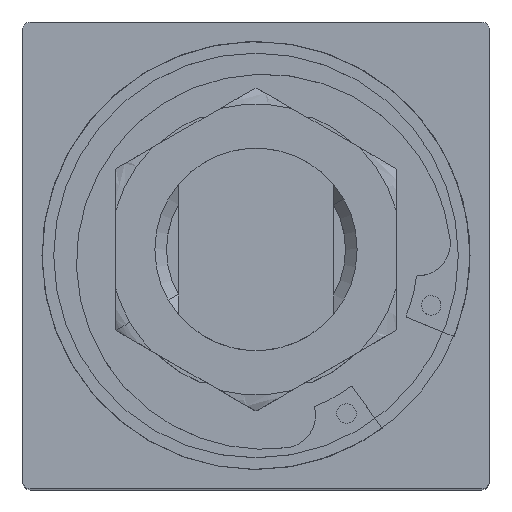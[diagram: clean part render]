
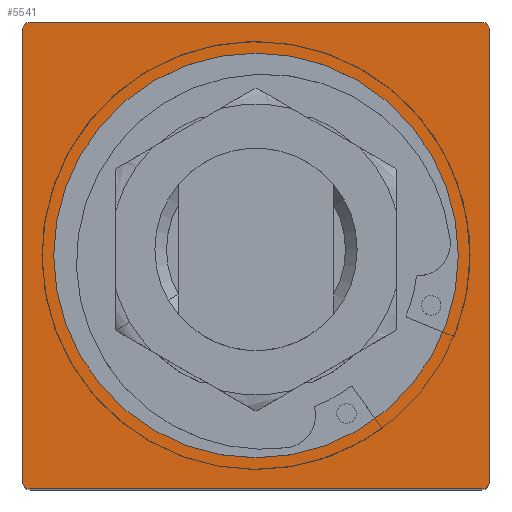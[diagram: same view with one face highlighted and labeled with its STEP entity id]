
A CAD part, top view. The second image highlights one B-rep face of the part: STEP entity #5541.
In plain terms, the highlighted planar face has unit normal (0, 0, 1).
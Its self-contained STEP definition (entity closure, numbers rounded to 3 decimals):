
#78 = LINE ( 'NONE', #663, #17914 ) ;
#299 = EDGE_CURVE ( 'NONE', #7950, #11999, #19540, .T. ) ;
#608 = ORIENTED_EDGE ( 'NONE', *, *, #10208, .T. ) ;
#663 = CARTESIAN_POINT ( 'NONE',  ( 0., -30., -718. ) ) ;
#692 = LINE ( 'NONE', #17392, #8366 ) ;
#1158 = CIRCLE ( 'NONE', #8865, 1. ) ;
#1592 = ORIENTED_EDGE ( 'NONE', *, *, #8836, .T. ) ;
#1632 = DIRECTION ( 'NONE',  ( -1., 0., 0. ) ) ;
#2130 = FACE_OUTER_BOUND ( 'NONE', #5922, .T. ) ;
#2598 = DIRECTION ( 'NONE',  ( -1., 0., 0. ) ) ;
#2892 = DIRECTION ( 'NONE',  ( 0., 0., -1. ) ) ;
#3061 = CARTESIAN_POINT ( 'NONE',  ( -30., 0., -718. ) ) ;
#3484 = ORIENTED_EDGE ( 'NONE', *, *, #299, .F. ) ;
#3542 = LINE ( 'NONE', #3061, #16370 ) ;
#3582 = CARTESIAN_POINT ( 'NONE',  ( 29., -29., -718. ) ) ;
#4128 = CIRCLE ( 'NONE', #7552, 1. ) ;
#4205 = EDGE_CURVE ( 'NONE', #7349, #16031, #6685, .T. ) ;
#4721 = CARTESIAN_POINT ( 'NONE',  ( -29., -30., -718. ) ) ;
#5057 = DIRECTION ( 'NONE',  ( 0., -1., 0. ) ) ;
#5541 = ADVANCED_FACE ( 'NONE', ( #11714, #2130 ), #5672, .T. ) ;
#5672 = PLANE ( 'NONE',  #9594 ) ;
#5922 = EDGE_LOOP ( 'NONE', ( #1592, #7627, #17491, #14165, #15220, #18632, #608, #3484 ) ) ;
#6685 = LINE ( 'NONE', #18193, #21139 ) ;
#7073 = EDGE_CURVE ( 'NONE', #13135, #20226, #7718, .T. ) ;
#7092 = CARTESIAN_POINT ( 'NONE',  ( 26., 0., -718. ) ) ;
#7349 = VERTEX_POINT ( 'NONE', #7518 ) ;
#7518 = CARTESIAN_POINT ( 'NONE',  ( 29., 30., -718. ) ) ;
#7552 = AXIS2_PLACEMENT_3D ( 'NONE', #12052, #8314, #16926 ) ;
#7627 = ORIENTED_EDGE ( 'NONE', *, *, #21875, .F. ) ;
#7718 = CIRCLE ( 'NONE', #15362, 26. ) ;
#7780 = CARTESIAN_POINT ( 'NONE',  ( 0., 0., -718. ) ) ;
#7950 = VERTEX_POINT ( 'NONE', #4721 ) ;
#8314 = DIRECTION ( 'NONE',  ( 0., 0., 1. ) ) ;
#8366 = VECTOR ( 'NONE', #12275, 1000. ) ;
#8524 = VERTEX_POINT ( 'NONE', #18258 ) ;
#8543 = DIRECTION ( 'NONE',  ( 0., 0., -1. ) ) ;
#8836 = EDGE_CURVE ( 'NONE', #7950, #9800, #78, .T. ) ;
#8865 = AXIS2_PLACEMENT_3D ( 'NONE', #16716, #16878, #20328 ) ;
#9050 = DIRECTION ( 'NONE',  ( 1., 0., 0. ) ) ;
#9422 = AXIS2_PLACEMENT_3D ( 'NONE', #3582, #8543, #13711 ) ;
#9594 = AXIS2_PLACEMENT_3D ( 'NONE', #21146, #14255, #21214 ) ;
#9643 = DIRECTION ( 'NONE',  ( -1., 0., 0. ) ) ;
#9800 = VERTEX_POINT ( 'NONE', #19618 ) ;
#9973 = CARTESIAN_POINT ( 'NONE',  ( 30., -29., -718. ) ) ;
#10101 = VERTEX_POINT ( 'NONE', #9973 ) ;
#10135 = AXIS2_PLACEMENT_3D ( 'NONE', #7780, #2892, #2598 ) ;
#10208 = EDGE_CURVE ( 'NONE', #8524, #11999, #3542, .T. ) ;
#10860 = VERTEX_POINT ( 'NONE', #20292 ) ;
#11293 = CARTESIAN_POINT ( 'NONE',  ( -30., -29., -718. ) ) ;
#11298 = ORIENTED_EDGE ( 'NONE', *, *, #7073, .T. ) ;
#11660 = DIRECTION ( 'NONE',  ( 0., 0., -1. ) ) ;
#11714 = FACE_BOUND ( 'NONE', #21240, .T. ) ;
#11999 = VERTEX_POINT ( 'NONE', #11293 ) ;
#12052 = CARTESIAN_POINT ( 'NONE',  ( 29., 29., -718. ) ) ;
#12275 = DIRECTION ( 'NONE',  ( 0., 1., 0. ) ) ;
#12836 = EDGE_CURVE ( 'NONE', #10860, #7349, #4128, .T. ) ;
#12942 = CARTESIAN_POINT ( 'NONE',  ( -29., 30., -718. ) ) ;
#13135 = VERTEX_POINT ( 'NONE', #21322 ) ;
#13690 = EDGE_CURVE ( 'NONE', #16031, #8524, #1158, .T. ) ;
#13711 = DIRECTION ( 'NONE',  ( -1., 0., 0. ) ) ;
#13739 = CARTESIAN_POINT ( 'NONE',  ( -29., -29., -718. ) ) ;
#14020 = DIRECTION ( 'NONE',  ( -1., 0., 0. ) ) ;
#14165 = ORIENTED_EDGE ( 'NONE', *, *, #12836, .T. ) ;
#14255 = DIRECTION ( 'NONE',  ( 0., 0., 1. ) ) ;
#14759 = CIRCLE ( 'NONE', #9422, 1. ) ;
#15220 = ORIENTED_EDGE ( 'NONE', *, *, #4205, .T. ) ;
#15362 = AXIS2_PLACEMENT_3D ( 'NONE', #19918, #11660, #1632 ) ;
#15383 = CIRCLE ( 'NONE', #10135, 26. ) ;
#16031 = VERTEX_POINT ( 'NONE', #12942 ) ;
#16370 = VECTOR ( 'NONE', #5057, 1000. ) ;
#16716 = CARTESIAN_POINT ( 'NONE',  ( -29., 29., -718. ) ) ;
#16878 = DIRECTION ( 'NONE',  ( 0., 0., 1. ) ) ;
#16926 = DIRECTION ( 'NONE',  ( -1., 0., 0. ) ) ;
#17255 = DIRECTION ( 'NONE',  ( 0., 0., -1. ) ) ;
#17392 = CARTESIAN_POINT ( 'NONE',  ( 30., 0., -718. ) ) ;
#17491 = ORIENTED_EDGE ( 'NONE', *, *, #18672, .T. ) ;
#17914 = VECTOR ( 'NONE', #9050, 1000. ) ;
#18193 = CARTESIAN_POINT ( 'NONE',  ( -30., 30., -718. ) ) ;
#18258 = CARTESIAN_POINT ( 'NONE',  ( -30., 29., -718. ) ) ;
#18632 = ORIENTED_EDGE ( 'NONE', *, *, #13690, .T. ) ;
#18672 = EDGE_CURVE ( 'NONE', #10101, #10860, #692, .T. ) ;
#18965 = ORIENTED_EDGE ( 'NONE', *, *, #19889, .T. ) ;
#19045 = AXIS2_PLACEMENT_3D ( 'NONE', #13739, #17255, #14020 ) ;
#19540 = CIRCLE ( 'NONE', #19045, 1. ) ;
#19618 = CARTESIAN_POINT ( 'NONE',  ( 29., -30., -718. ) ) ;
#19889 = EDGE_CURVE ( 'NONE', #20226, #13135, #15383, .T. ) ;
#19918 = CARTESIAN_POINT ( 'NONE',  ( 0., 0., -718. ) ) ;
#20226 = VERTEX_POINT ( 'NONE', #7092 ) ;
#20292 = CARTESIAN_POINT ( 'NONE',  ( 30., 29., -718. ) ) ;
#20328 = DIRECTION ( 'NONE',  ( -1., 0., 0. ) ) ;
#21139 = VECTOR ( 'NONE', #9643, 1000. ) ;
#21146 = CARTESIAN_POINT ( 'NONE',  ( 0., 0., -718. ) ) ;
#21214 = DIRECTION ( 'NONE',  ( 1., 0., 0. ) ) ;
#21240 = EDGE_LOOP ( 'NONE', ( #11298, #18965 ) ) ;
#21322 = CARTESIAN_POINT ( 'NONE',  ( -26., 0., -718. ) ) ;
#21875 = EDGE_CURVE ( 'NONE', #10101, #9800, #14759, .T. ) ;
